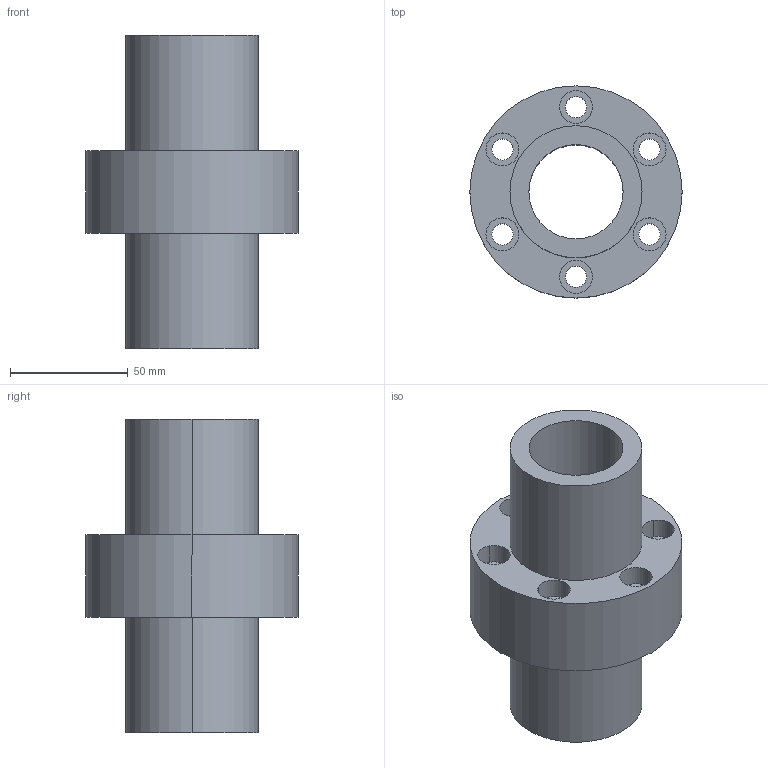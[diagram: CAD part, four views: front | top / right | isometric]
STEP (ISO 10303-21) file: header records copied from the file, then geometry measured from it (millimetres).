
FILE_DESCRIPTION((''),'2;1');
FILE_NAME('40-6T4','2008-04-07T',('yanyu'),(''),'PRO/ENGINEER BY PARAMETRIC TECHNOLOGY CORPORATION, 2005070','PRO/ENGINEER BY PARAMETRIC TECHNOLOGY CORPORATION, 2005070','');
FILE_SCHEMA(('CONFIG_CONTROL_DESIGN'));
Length unit declared in the file: millimetre
Products named in the file (1): 40-6T4
Bounding box: 90 x 90 x 133 mm (x, y, z)
Volume: 278936.5 mm3; surface area: 60035.8 mm2
Topology: 1 solids, 1 shells, 42 faces, 100 edges, 68 vertices
Faces by surface type: cylinder 32, plane 10
Entity records: 1330 total; most frequent: DIRECTION 252, CARTESIAN_POINT 210, ORIENTED_EDGE 200, AXIS2_PLACEMENT_3D 110, EDGE_CURVE 100, VERTEX_POINT 68, CIRCLE 68, EDGE_LOOP 64
